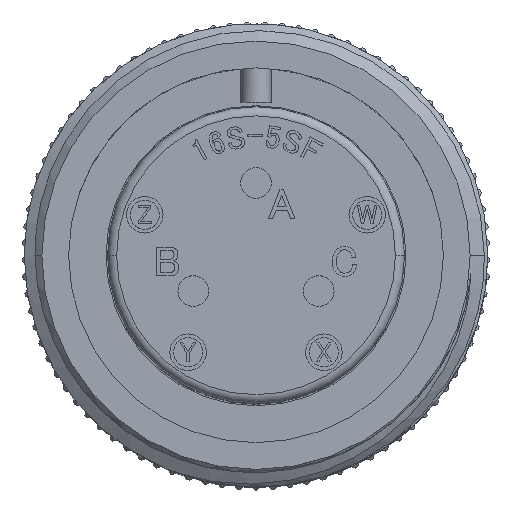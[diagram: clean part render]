
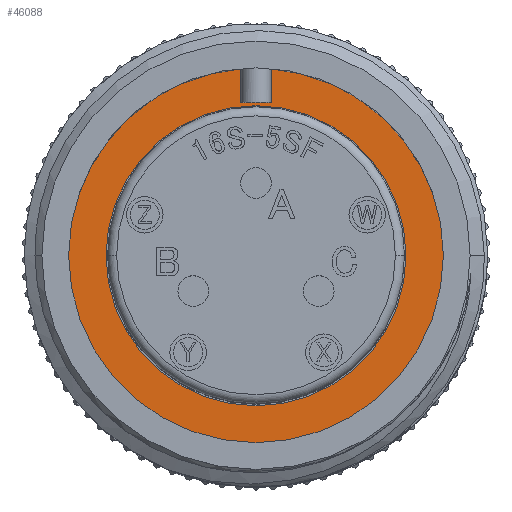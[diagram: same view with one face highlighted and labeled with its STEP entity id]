
A CAD part, top view. The second image highlights one B-rep face of the part: STEP entity #46088.
In plain terms, the highlighted planar face has unit normal (0, 0, 1).
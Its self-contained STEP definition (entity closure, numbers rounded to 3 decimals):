
#243 = DIRECTION ( 'NONE',  ( 1., 0., 0. ) ) ;
#533 = LINE ( 'NONE', #33215, #11490 ) ;
#998 = DIRECTION ( 'NONE',  ( -1., 0., 0. ) ) ;
#1037 = ORIENTED_EDGE ( 'NONE', *, *, #45240, .T. ) ;
#1117 = VERTEX_POINT ( 'NONE', #31301 ) ;
#1119 = DIRECTION ( 'NONE',  ( -1., 0., 0. ) ) ;
#1587 = CIRCLE ( 'NONE', #28692, 10.25 ) ;
#2687 = FACE_BOUND ( 'NONE', #33690, .T. ) ;
#2820 = DIRECTION ( 'NONE',  ( 1., 0., 0. ) ) ;
#3395 = EDGE_CURVE ( 'NONE', #3570, #43063, #15091, .T. ) ;
#3570 = VERTEX_POINT ( 'NONE', #7020 ) ;
#3623 = EDGE_CURVE ( 'NONE', #12339, #30879, #8215, .T. ) ;
#4151 = CARTESIAN_POINT ( 'NONE',  ( -0.825, 10.217, -14.41 ) ) ;
#4155 = VECTOR ( 'NONE', #30135, 1000. ) ;
#5970 = ORIENTED_EDGE ( 'NONE', *, *, #20976, .F. ) ;
#6581 = VERTEX_POINT ( 'NONE', #12697 ) ;
#7020 = CARTESIAN_POINT ( 'NONE',  ( 8.205, 0., -14.41 ) ) ;
#8215 = CIRCLE ( 'NONE', #20580, 10.25 ) ;
#10525 = VERTEX_POINT ( 'NONE', #24705 ) ;
#11490 = VECTOR ( 'NONE', #243, 1000. ) ;
#12050 = CARTESIAN_POINT ( 'NONE',  ( 0., 0., -14.41 ) ) ;
#12339 = VERTEX_POINT ( 'NONE', #35799 ) ;
#12697 = CARTESIAN_POINT ( 'NONE',  ( -0.825, 8.38, -14.41 ) ) ;
#13373 = ORIENTED_EDGE ( 'NONE', *, *, #3395, .T. ) ;
#13918 = LINE ( 'NONE', #22683, #4155 ) ;
#15009 = DIRECTION ( 'NONE',  ( 0., 0., 1. ) ) ;
#15091 = CIRCLE ( 'NONE', #31393, 8.205 ) ;
#15715 = DIRECTION ( 'NONE',  ( -1., 0., 0. ) ) ;
#15987 = EDGE_CURVE ( 'NONE', #30879, #10525, #13918, .T. ) ;
#16825 = CARTESIAN_POINT ( 'NONE',  ( 0., 0., -14.41 ) ) ;
#19226 = ORIENTED_EDGE ( 'NONE', *, *, #28558, .T. ) ;
#20498 = DIRECTION ( 'NONE',  ( -1., 0., 0. ) ) ;
#20580 = AXIS2_PLACEMENT_3D ( 'NONE', #37005, #15009, #40719 ) ;
#20795 = AXIS2_PLACEMENT_3D ( 'NONE', #12050, #37720, #15715 ) ;
#20976 = EDGE_CURVE ( 'NONE', #6581, #10525, #533, .T. ) ;
#21041 = EDGE_CURVE ( 'NONE', #6581, #23331, #27560, .T. ) ;
#21281 = CARTESIAN_POINT ( 'NONE',  ( 0.825, 10.217, -14.41 ) ) ;
#22553 = ORIENTED_EDGE ( 'NONE', *, *, #15987, .T. ) ;
#22683 = CARTESIAN_POINT ( 'NONE',  ( 0.825, 8.205, -14.41 ) ) ;
#22833 = ORIENTED_EDGE ( 'NONE', *, *, #46325, .T. ) ;
#22991 = DIRECTION ( 'NONE',  ( 0., 0., 1. ) ) ;
#23111 = DIRECTION ( 'NONE',  ( 0., 0., 1. ) ) ;
#23331 = VERTEX_POINT ( 'NONE', #4151 ) ;
#24705 = CARTESIAN_POINT ( 'NONE',  ( 0.825, 8.38, -14.41 ) ) ;
#24811 = DIRECTION ( 'NONE',  ( 0., 0., 1. ) ) ;
#25048 = CIRCLE ( 'NONE', #46522, 10.25 ) ;
#26247 = DIRECTION ( 'NONE',  ( 0., 1., 0. ) ) ;
#27560 = LINE ( 'NONE', #40893, #28751 ) ;
#28558 = EDGE_CURVE ( 'NONE', #43063, #3570, #28994, .T. ) ;
#28692 = AXIS2_PLACEMENT_3D ( 'NONE', #45018, #22991, #998 ) ;
#28751 = VECTOR ( 'NONE', #26247, 1000. ) ;
#28994 = CIRCLE ( 'NONE', #20795, 8.205 ) ;
#30135 = DIRECTION ( 'NONE',  ( 0., -1., 0. ) ) ;
#30874 = FACE_OUTER_BOUND ( 'NONE', #36456, .T. ) ;
#30879 = VERTEX_POINT ( 'NONE', #21281 ) ;
#31301 = CARTESIAN_POINT ( 'NONE',  ( -10.25, 0., -14.41 ) ) ;
#31393 = AXIS2_PLACEMENT_3D ( 'NONE', #16825, #42556, #20498 ) ;
#31776 = AXIS2_PLACEMENT_3D ( 'NONE', #31948, #24811, #2820 ) ;
#31948 = CARTESIAN_POINT ( 'NONE',  ( 0., 8.205, -14.41 ) ) ;
#33215 = CARTESIAN_POINT ( 'NONE',  ( 0., 8.38, -14.41 ) ) ;
#33690 = EDGE_LOOP ( 'NONE', ( #19226, #13373 ) ) ;
#35589 = PLANE ( 'NONE',  #31776 ) ;
#35741 = ORIENTED_EDGE ( 'NONE', *, *, #3623, .T. ) ;
#35799 = CARTESIAN_POINT ( 'NONE',  ( 10.25, 0., -14.41 ) ) ;
#36456 = EDGE_LOOP ( 'NONE', ( #22833, #1037, #35741, #22553, #5970, #42232 ) ) ;
#37005 = CARTESIAN_POINT ( 'NONE',  ( 0., 0., -14.41 ) ) ;
#37720 = DIRECTION ( 'NONE',  ( 0., 0., -1. ) ) ;
#40719 = DIRECTION ( 'NONE',  ( -1., 0., 0. ) ) ;
#40893 = CARTESIAN_POINT ( 'NONE',  ( -0.825, 8.205, -14.41 ) ) ;
#42232 = ORIENTED_EDGE ( 'NONE', *, *, #21041, .T. ) ;
#42556 = DIRECTION ( 'NONE',  ( 0., 0., -1. ) ) ;
#42651 = CARTESIAN_POINT ( 'NONE',  ( -8.205, 0., -14.41 ) ) ;
#43063 = VERTEX_POINT ( 'NONE', #42651 ) ;
#45018 = CARTESIAN_POINT ( 'NONE',  ( 0., 0., -14.41 ) ) ;
#45136 = CARTESIAN_POINT ( 'NONE',  ( 0., 0., -14.41 ) ) ;
#45240 = EDGE_CURVE ( 'NONE', #1117, #12339, #1587, .T. ) ;
#46088 = ADVANCED_FACE ( 'NONE', ( #30874, #2687 ), #35589, .T. ) ;
#46325 = EDGE_CURVE ( 'NONE', #23331, #1117, #25048, .T. ) ;
#46522 = AXIS2_PLACEMENT_3D ( 'NONE', #45136, #23111, #1119 ) ;
